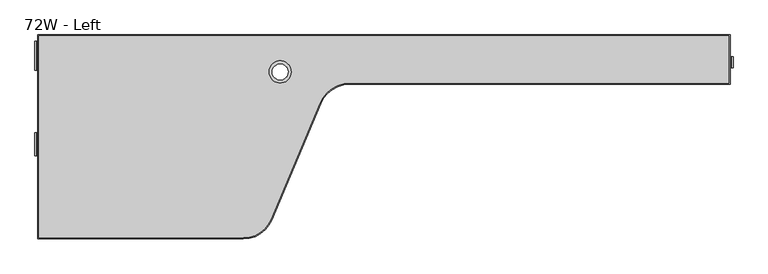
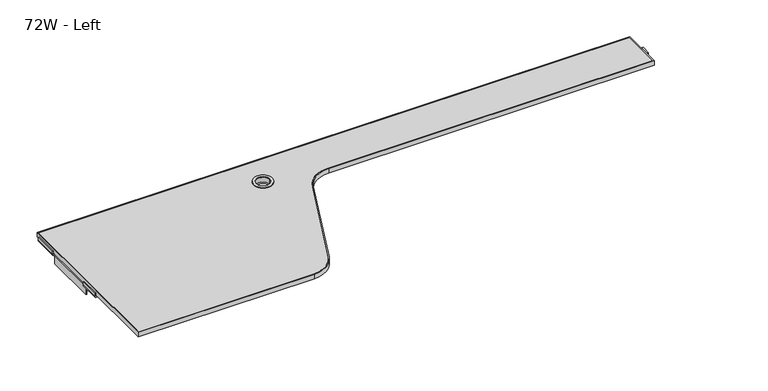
"""IFC4 building model written with IfcOpenShell, lengths in millimetres: furniture geometry, Steelcase Turnstone - Bivi - Table - Dual Top - Upper : 72W - Left."""

import ifcopenshell
import ifcopenshell.guid

model = None  # the IFC model being written
_history = None  # IfcOwnerHistory: only IFC2X3 demands one
_inside = {}  # id of a spatial element -> (the spatial element, [elements in it])
_under = {}  # id of a project, library or spatial element -> (it, [spatial elements below it])
_declared = {}  # id of a project -> (the project, [libraries it declares])
_typed = {}  # id of a type object -> (the type object, [elements of that type])
_made_of = {}  # id of a material, layer set ... -> (it, [elements and type objects made of it])


def new_model(schema):
    """Start an empty IFC model of exactly this schema.

    Asked for "IFC4X3", IfcOpenShell would pick the latest addendum, in which some entities
    have other attributes; the version numbers below select the first issue.
    IFC2X3 requires an IfcOwnerHistory on every rooted entity: one is made here for all.
    """
    global model, _history
    if schema == "IFC4X3":
        model = ifcopenshell.file(schema_version=(4, 3, 0, 0))
    else:
        model = ifcopenshell.file(schema=schema)
    _inside.clear()
    _under.clear()
    _declared.clear()
    _typed.clear()
    _made_of.clear()
    _history = None
    if model.schema == "IFC2X3":
        org = make("IfcOrganization", Name="unknown")
        user = make(
            "IfcPersonAndOrganization",
            ThePerson=make("IfcPerson", FamilyName="unknown"),
            TheOrganization=org,
        )
        app = make(
            "IfcApplication",
            ApplicationDeveloper=org,
            Version="unknown",
            ApplicationFullName="unknown",
            ApplicationIdentifier="unknown",
        )
        _history = make(
            "IfcOwnerHistory",
            OwningUser=user,
            OwningApplication=app,
            ChangeAction="ADDED",
            CreationDate=0,
        )
    return model


def make(cls, **values):
    """One entity of the class cls with the attributes given. An attribute that is None is left unset."""
    return model.create_entity(
        cls, **{name: value for name, value in values.items() if value is not None}
    )


def rooted(cls, **values):
    """An entity with a GlobalId (a new one), such as an element, a storey or a relation."""
    return make(cls, GlobalId=ifcopenshell.guid.new(), OwnerHistory=_history, **values)


def si_unit(unit_type, name, prefix=None):
    """IfcSIUnit, for example si_unit("LENGTHUNIT", "METRE", prefix="MILLI")."""
    return make("IfcSIUnit", UnitType=unit_type, Prefix=prefix, Name=name)


def assignment(units):
    """IfcUnitAssignment: the units of a project."""
    return None if units is None else make("IfcUnitAssignment", Units=units)


def point(xyz):
    """IfcCartesianPoint."""
    return None if xyz is None else make("IfcCartesianPoint", Coordinates=xyz)


def direction(xyz):
    """IfcDirection."""
    return None if xyz is None else make("IfcDirection", DirectionRatios=xyz)


def frame(location, z_axis=None, x_axis=None):
    """IfcAxis2Placement3D, a coordinate frame: its origin and axes. An axis left out is left unset."""
    return make(
        "IfcAxis2Placement3D",
        Location=point(location),
        Axis=direction(z_axis),
        RefDirection=direction(x_axis),
    )


def frame_2d(location, x_axis=None):
    """IfcAxis2Placement2D, a coordinate frame in the plane: its origin and x axis."""
    return make(
        "IfcAxis2Placement2D", Location=point(location), RefDirection=direction(x_axis)
    )


def origin():
    """The frame at (0, 0, 0) with its axes left unset."""
    return frame((0.0, 0.0, 0.0))


def place(relative_to, where):
    """IfcLocalPlacement: puts the frame where relative to a parent placement (None: the world)."""
    return make(
        "IfcLocalPlacement", PlacementRelTo=relative_to, RelativePlacement=where
    )


def context(
    kind, dimensions, precision=None, world=None, true_north=None, identifier=None
):
    """IfcGeometricRepresentationContext, for example the 3D "Model" context."""
    return make(
        "IfcGeometricRepresentationContext",
        ContextIdentifier=identifier,
        ContextType=kind,
        CoordinateSpaceDimension=dimensions,
        Precision=precision,
        WorldCoordinateSystem=world,
        TrueNorth=true_north,
    )


def project(units=None, contexts=None):
    """IfcProject with its units and contexts."""
    return rooted(
        "IfcProject",
        Name="project",
        RepresentationContexts=contexts,
        UnitsInContext=assignment(units),
    )


def spatial(cls, under=None, at=None, **own):
    """A site, building, storey or space (cls), placed at a placement, below another one or the project."""
    s = rooted(cls, ObjectPlacement=at, **own)
    if under is not None:
        _under.setdefault(under.id(), (under, []))[1].append(s)
    return s


def polyline(points):
    """IfcPolyline through the points."""
    return make("IfcPolyline", Points=[point(p) for p in points])


def circle_curve(where, radius):
    """IfcCircle in the frame where."""
    return make("IfcCircle", Position=where, Radius=radius)


def trimmed(basis, trim1, trim2, sense, master):
    """IfcTrimmedCurve: the piece of a basis curve between two trims."""
    return make(
        "IfcTrimmedCurve",
        BasisCurve=basis,
        Trim1=trim1,
        Trim2=trim2,
        SenseAgreement=sense,
        MasterRepresentation=master,
    )


def segment(curve, same_sense, transition):
    """IfcCompositeCurveSegment."""
    return make(
        "IfcCompositeCurveSegment",
        Transition=transition,
        SameSense=same_sense,
        ParentCurve=curve,
    )


def composite_curve(segments, self_intersect=None):
    """IfcCompositeCurve: segments joined end to end."""
    return make("IfcCompositeCurve", Segments=segments, SelfIntersect=self_intersect)


def outline(outer, holes=None, kind="AREA"):
    """IfcArbitraryClosedProfileDef: a profile drawn as a closed curve; with holes, ...WithVoids."""
    if holes is None:
        return make("IfcArbitraryClosedProfileDef", ProfileType=kind, OuterCurve=outer)
    return make(
        "IfcArbitraryProfileDefWithVoids",
        ProfileType=kind,
        OuterCurve=outer,
        InnerCurves=holes,
    )


def extrude(swept, where, along, depth):
    """IfcExtrudedAreaSolid: the profile swept, set in the frame where, extruded along a direction by depth."""
    return make(
        "IfcExtrudedAreaSolid",
        SweptArea=swept,
        Position=where,
        ExtrudedDirection=direction(along),
        Depth=depth,
    )


def faces_of(points, faces, orient=None, outer=None):
    """IfcFace entities. A face is a list of loops; a loop is a list of indices into points, from 0.

    orient and outer hold one flag for each loop. By default every Orientation is true, the
    first loop of a face is its IfcFaceOuterBound and the others are IfcFaceBound.
    """
    made = []
    for i, loops in enumerate(faces):
        bounds = []
        for j, loop in enumerate(loops):
            is_outer = j == 0 if outer is None else outer[i][j]
            bounds.append(
                make(
                    "IfcFaceOuterBound" if is_outer else "IfcFaceBound",
                    Bound=make("IfcPolyLoop", Polygon=[points[k] for k in loop]),
                    Orientation=True if orient is None else orient[i][j],
                )
            )
        made.append(make("IfcFace", Bounds=bounds))
    return made


def faceted_brep(points, faces, orient=None, outer=None, voids=None):
    """IfcFacetedBrep: a solid bounded by flat faces; with voids (closed shells), ...WithVoids."""
    shared = [point(p) for p in points]
    hull = make("IfcClosedShell", CfsFaces=faces_of(shared, faces, orient, outer))
    if voids is None:
        return make("IfcFacetedBrep", Outer=hull)
    return make(
        "IfcFacetedBrepWithVoids",
        Outer=hull,
        Voids=[
            make(cls, CfsFaces=faces_of(shared, fs, o, b)) for cls, fs, o, b in voids
        ],
    )


def shape(context_of_items, identifier, shape_type, items):
    """IfcShapeRepresentation: the items that make up one representation, for example the "Body"."""
    return make(
        "IfcShapeRepresentation",
        ContextOfItems=context_of_items,
        RepresentationIdentifier=identifier,
        RepresentationType=shape_type,
        Items=items,
    )


def source(mapping_origin, context_of_items, identifier, shape_type, items):
    """IfcRepresentationMap: a shape defined once, which mapped items show again and again."""
    return make(
        "IfcRepresentationMap",
        MappingOrigin=mapping_origin,
        MappedRepresentation=shape(context_of_items, identifier, shape_type, items),
    )


def transform(
    local_origin,
    x_axis=None,
    y_axis=None,
    z_axis=None,
    scale=None,
    scale2=None,
    scale3=None,
    uniform=True,
):
    """IfcCartesianTransformationOperator3D, or its non-uniform kind. x_axis, y_axis, z_axis: its Axis1, 2, 3."""
    if uniform:
        return make(
            "IfcCartesianTransformationOperator3D",
            Axis1=direction(x_axis),
            Axis2=direction(y_axis),
            LocalOrigin=point(local_origin),
            Scale=scale,
            Axis3=direction(z_axis),
        )
    return make(
        "IfcCartesianTransformationOperator3DnonUniform",
        Axis1=direction(x_axis),
        Axis2=direction(y_axis),
        LocalOrigin=point(local_origin),
        Scale=scale,
        Axis3=direction(z_axis),
        Scale2=scale2,
        Scale3=scale3,
    )


def mapped(mapping_source, mapping_target):
    """IfcMappedItem: shows the shape of a source again, moved by a transform."""
    return make(
        "IfcMappedItem", MappingSource=mapping_source, MappingTarget=mapping_target
    )


def made_of(thing, what):
    """Note that an element or type object is made of a material, layer set ...; save() writes the relation."""
    if what is not None:
        _made_of.setdefault(what.id(), (what, []))[1].append(thing)
    return thing


def element(
    cls,
    number,
    at=None,
    inside=None,
    cuts=None,
    type_object=None,
    material=None,
    context=None,
    identifier="Body",
    shape_type=None,
    held_by="IfcProductDefinitionShape",
    body=None,
    shapes=None,
    **own,
):
    """One element of the class cls, such as IfcWall. Its Tag is "e" and its number.

    at: its placement. inside: the storey or other place that contains it. cuts: it is an
    opening in that element (IfcRelVoidsElement). A single representation is given by context,
    identifier, shape_type and body (its items); several are given by shapes. held_by: the class
    of the entity that holds the representations. save() writes the other relations.
    """
    e = rooted(cls, Tag="e%d" % number, ObjectPlacement=at, **own)
    if body is not None:
        shapes = [shape(context, identifier, shape_type, body)]
    if shapes is not None:
        e.Representation = make(held_by, Representations=shapes)
    if inside is not None:
        _inside.setdefault(inside.id(), (inside, []))[1].append(e)
    if cuts is not None:
        rooted(
            "IfcRelVoidsElement", RelatingBuildingElement=cuts, RelatedOpeningElement=e
        )
    if type_object is not None:
        _typed.setdefault(type_object.id(), (type_object, []))[1].append(e)
    return made_of(e, material)


def aggregate(whole, parts):
    """IfcRelAggregates: a whole, such as a stair, and the parts it consists of."""
    return rooted("IfcRelAggregates", RelatingObject=whole, RelatedObjects=parts)


def save(model, path):
    """Write the relations noted so far, then the file.

    IfcRelAggregates (storeys below a building ...), IfcRelContainedInSpatialStructure (elements
    in a storey), IfcRelDefinesByType, IfcRelAssociatesMaterial and IfcRelDeclares: one each for
    every whole, place, type object, material and project.
    """
    for whole, parts in _under.values():
        aggregate(whole, parts)
    for where, things in _inside.values():
        rooted(
            "IfcRelContainedInSpatialStructure",
            RelatedElements=things,
            RelatingStructure=where,
        )
    for kind, things in _typed.values():
        rooted("IfcRelDefinesByType", RelatedObjects=things, RelatingType=kind)
    for what, things in _made_of.values():
        rooted("IfcRelAssociatesMaterial", RelatedObjects=things, RelatingMaterial=what)
    for by, libraries in _declared.values():
        rooted("IfcRelDeclares", RelatingContext=by, RelatedDefinitions=libraries)
    model.write(path)


def plane_surface(at):
    """IfcPlane: the flat surface through the origin of the frame at, square to its z axis."""
    return make("IfcPlane", Position=at)


def cylinder_surface(at, radius):
    """IfcCylindricalSurface: all points at the distance radius from the z axis of the frame at."""
    return make("IfcCylindricalSurface", Position=at, Radius=radius)


def revolved_surface(curve, axis_point, axis_direction):
    """IfcSurfaceOfRevolution: the curve turned about the line through axis_point along axis_direction."""
    return make(
        "IfcSurfaceOfRevolution",
        SweptCurve=make("IfcArbitraryOpenProfileDef", ProfileType="CURVE", Curve=curve),
        AxisPosition=make("IfcAxis1Placement", Location=point(axis_point), Axis=direction(axis_direction)),
    )


def advanced_brep(points, edges, surfaces, faces):
    """IfcAdvancedBrep: a solid bounded by faces that lie on surfaces and meet in shared edges.

    An edge is (start, end): straight between two places in points (the first is 0);
    or (start, end, curve); or (start, end, curve, False) where it runs against its curve.
    A face is (place in surfaces, loops), or (place, loops, False) where it looks against
    its surface's normal. A loop lists edges by number (the first is 1), with a minus sign
    where the edge is run from its end to its start. The first loop is the outer one.
    """
    corners = [point(p) for p in points]
    vertices = [make("IfcVertexPoint", VertexGeometry=c) for c in corners]
    made = []
    for start, end, *more in edges:
        made.append(
            make(
                "IfcEdgeCurve",
                EdgeStart=vertices[start],
                EdgeEnd=vertices[end],
                EdgeGeometry=more[0] if more else make("IfcPolyline", Points=[corners[start], corners[end]]),
                SameSense=more[1] if len(more) > 1 else True,
            )
        )
    hull = []
    for where, loops, *sense in faces:
        bounds = []
        for j, loop in enumerate(loops):
            ring = [make("IfcOrientedEdge", EdgeElement=made[abs(k) - 1], Orientation=k > 0) for k in loop]
            bounds.append(
                make(
                    "IfcFaceOuterBound" if j == 0 else "IfcFaceBound",
                    Bound=make("IfcEdgeLoop", EdgeList=ring),
                    Orientation=True,
                )
            )
        hull.append(make("IfcAdvancedFace", Bounds=bounds, FaceSurface=surfaces[where], SameSense=sense[0] if sense else True))
    return make("IfcAdvancedBrep", Outer=make("IfcClosedShell", CfsFaces=hull))


def furniture_72w_left_38a2987f(model_context):
    return source(origin(), model_context, "Body", "SolidModel", [
        faceted_brep([(890.710046, 798.3804985, 1041.4865257), (890.710046, 798.3804985, 984.3365257), (839.910046, 798.3804985, 984.3365257), (839.910046, 798.3804985, 1041.4865257), (679.4202293, 353.2724638, 1039.9118156), (700.0875061, 353.2724638, 1039.9118156), (700.0875061, 353.2724638, 1008.3955413), (679.4202293, 353.2724638, 1008.3955413), (679.4202293, 353.2724638, 1007.3133509), (702.2312326, 353.2724638, 1007.3133509), (702.2312326, 353.2724638, 1041.4865257), (679.4202293, 353.2724638, 1041.4865257)], [[[0, 1, 2, 3]], [[4, 5, 6, 7, 8, 9, 10, 11]], [[5, 4, 0]], [[6, 5, 0]], [[7, 6, 0, 3]], [[8, 7, 3, 2]], [[9, 8, 2, 1]], [[10, 9, 1, 0]], [[11, 10, 0]], [[4, 11, 0]]]),
        faceted_brep([(176.3325988, 298.0312383, 1041.4865257), (176.3325988, 353.2724638, 1041.4865257), (176.3325988, 353.2724638, 1010.7646869), (176.3325988, 337.4886594, 1010.7646869), (176.3325988, 309.9526244, 1031.5145776), (176.3325988, 309.9526244, 1040.1793583), (176.3325988, 298.0312383, 1040.1793583), (678.7163849, 298.0312383, 1041.4865257), (702.7713731, 353.2724638, 1041.4865257), (702.7713731, 353.2724638, 1010.7646869), (695.8982594, 337.4886594, 1010.7646869), (683.9075949, 309.9526244, 1031.5145776), (683.9075949, 309.9526244, 1040.1793583), (678.7163849, 298.0312383, 1040.1793583)], [[[0, 1, 2, 3, 4, 5, 6]], [[1, 0, 7, 8]], [[2, 1, 8, 9]], [[3, 2, 9, 10]], [[4, 3, 10, 11]], [[5, 4, 11, 12]], [[6, 5, 12, 13]], [[0, 6, 13, 7]], [[8, 7, 13, 12, 11, 10, 9]]]),
        extrude(outline(composite_curve([segment(trimmed(circle_curve(frame_2d((1043.0122331, 1931.4961898)), 1.7676499), [point((1043.0122331, 1933.2638397))], [point((1041.2445831, 1931.4961898))], True, "CARTESIAN"), True, "CONTINUOUS"), segment(polyline([(1041.2445831, 1931.4961898), (1041.2445831, 1908.5962259), (1038.2067598, 1908.5962259), (1038.2067598, 1931.09999)]), True, "CONTINUOUS"), segment(trimmed(circle_curve(frame_2d((1043.4087962, 1931.09999)), 5.2020364), [point((1038.2067598, 1931.09999))], [point((1043.4087962, 1936.3020264))], False, "CARTESIAN"), True, "CONTINUOUS"), segment(polyline([(1043.4087962, 1936.3020264), (1052.5780574, 1936.3020264), (1052.5780574, 1933.2638397), (1043.0122331, 1933.2638397)]), True, "CONTINUOUS")], self_intersect=False)), frame((0.0, 731.0843589, 0.0), z_axis=(0.0, 1.0, 0.0), x_axis=(0.0, 0.0, 1.0)), (0.0, 0.0, 1.0), 28.5750242),
        extrude(outline(composite_curve([segment(polyline([(153.4, 294.1411651), (153.4, 812.4281826), (1925.05, 812.4281826), (1925.05, 691.0157049), (952.3033924, 691.0157049)]), True, "CONTINUOUS"), segment(trimmed(circle_curve(frame_2d((952.3033924, 606.3077967)), 84.7079081), [point((952.3033924, 691.0157049))], [point((874.2002094, 639.0999071))], True, "CARTESIAN"), True, "CONTINUOUS"), segment(polyline([(874.2002094, 639.0999071), (748.9750264, 340.8426346)]), True, "CONTINUOUS"), segment(trimmed(circle_curve(frame_2d((678.7163849, 370.3411651)), 76.2), [point((748.9750264, 340.8426346))], [point((678.7163849, 294.1411651))], False, "CARTESIAN"), True, "CONTINUOUS"), segment(polyline([(678.7163849, 294.1411651), (153.4, 294.1411651)]), True, "CONTINUOUS")], self_intersect=False), holes=[composite_curve([segment(trimmed(circle_curve(frame_2d((773.0295779, 720.0618051)), 20.4182782), [point((752.6112996, 720.0618051))], [point((793.4478561, 720.0618051))], True, "CARTESIAN"), True, "CONTINUOUS"), segment(trimmed(circle_curve(frame_2d((773.0295779, 720.0618051)), 20.4182782), [point((793.4478561, 720.0618051))], [point((752.6112996, 720.0618051))], True, "CARTESIAN"), True, "CONTINUOUS")], self_intersect=False)]), frame((0.0, 0.0, 1041.4865257), z_axis=(0.0, 0.0, 1.0), x_axis=(1.0, 0.0, 0.0)), (0.0, 0.0, 1.0), 13.9699806),
        advanced_brep(
        [(150.6059845, 291.3471738, 1055.4565063), (678.6792673, 291.3471738, 1055.4565063), (751.5511765, 339.7610219, 1055.4565063), (876.7763596, 638.0182943, 1055.4565063), (952.3033924, 688.2217049, 1055.4565063), (1928.6059845, 688.2217075, 1055.4565063), (1928.6059845, 815.2221738, 1055.4565063), (150.6059845, 815.2221738, 1055.4565063), (952.3033924, 691.0157049, 1055.4565063), (874.2002094, 639.0999071, 1055.4565063), (748.9750264, 340.8426346, 1055.4565063), (678.7163849, 294.1411651, 1055.4565063), (153.4, 294.1411651, 1055.4565063), (153.4, 812.4281826, 1055.4565063), (1925.05, 812.4281826, 1055.4565063), (1925.05, 691.0157049, 1055.4565063), (150.6059845, 291.3471738, 1041.4865257), (150.6059845, 815.2221738, 1041.4865257), (1928.6059845, 815.2221738, 1041.4865257), (1928.6059845, 688.2217075, 1041.4865257), (952.3033924, 688.2217075, 1041.4865257), (876.7763596, 638.0182943, 1041.4865257), (751.5511765, 339.7610219, 1041.4865257), (678.6792673, 291.3471738, 1041.4865257), (952.3033924, 691.0157049, 1041.4865257), (1925.05, 691.0157049, 1041.4865257), (1925.05, 812.4281826, 1041.4865257), (153.4, 812.4281826, 1041.4865257), (153.4, 294.1411651, 1041.4865257), (678.7163849, 294.1411651, 1041.4865257), (748.9750264, 340.8426346, 1041.4865257), (874.2002094, 639.0999071, 1041.4865257)],
        [
            (0, 1),
            (1, 2, circle_curve(frame((678.7163849, 370.3411651, 1055.4565063), z_axis=(0.0, 0.0, 1.0), x_axis=(-0.4063186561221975, 0.913731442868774, 0.0)), 78.994)),
            (2, 3),
            (3, 4, circle_curve(frame((952.3033924, 606.3077967, 1055.4565063), z_axis=(0.0, 0.0, -1.0), x_axis=(-0.4063186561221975, 0.913731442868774, 0.0)), 81.9139081)),
            (4, 5),
            (5, 6),
            (6, 7),
            (7, 0),
            (8, 9, circle_curve(frame((952.3033924, 606.3077967, 1055.4565063), z_axis=(0.0, 0.0, 1.0), x_axis=(-0.4063186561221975, 0.913731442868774, 0.0)), 84.7079081)),
            (9, 10),
            (10, 11, circle_curve(frame((678.7163849, 370.3411651, 1055.4565063), z_axis=(0.0, 0.0, -1.0), x_axis=(-0.4063186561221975, 0.913731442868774, 0.0)), 76.2)),
            (11, 12),
            (12, 13),
            (13, 14),
            (14, 15),
            (15, 8),
            (16, 17),
            (17, 18),
            (18, 19),
            (19, 20),
            (20, 21, circle_curve(frame((952.3033924, 606.3077967, 1041.4865257), z_axis=(0.0, 0.0, 1.0), x_axis=(-0.4063186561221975, 0.913731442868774, 0.0)), 81.9139081)),
            (21, 22),
            (22, 23, circle_curve(frame((678.7163849, 370.3411651, 1041.4865257), z_axis=(0.0, 0.0, -1.0), x_axis=(-0.4063186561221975, 0.913731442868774, 0.0)), 78.994)),
            (23, 16),
            (24, 25),
            (25, 26),
            (26, 27),
            (27, 28),
            (28, 29),
            (29, 30, circle_curve(frame((678.7163849, 370.3411651, 1041.4865257), z_axis=(0.0, 0.0, 1.0), x_axis=(-0.4063186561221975, 0.913731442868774, 0.0)), 76.2)),
            (30, 31),
            (31, 24, circle_curve(frame((952.3033924, 606.3077967, 1041.4865257), z_axis=(0.0, 0.0, -1.0), x_axis=(-0.4063186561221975, 0.913731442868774, 0.0)), 84.7079081)),
            (8, 24),
            (31, 9),
            (30, 10),
            (29, 11),
            (28, 12),
            (27, 13),
            (26, 14),
            (25, 15),
            (0, 16),
            (23, 1),
            (22, 2),
            (21, 3),
            (20, 4),
            (19, 5),
            (18, 6),
            (17, 7),
        ],
        [
            plane_surface(frame((917.884989, 683.7080759, 1055.4565063), z_axis=(0.0, 0.0, 1.0000000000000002), x_axis=(-0.913731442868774, -0.40631865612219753, 0.0))),
            plane_surface(frame((917.884989, 683.7080759, 1041.4865257), z_axis=(0.0, 0.0, -1.0000000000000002), x_axis=(0.913731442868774, 0.40631865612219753, 0.0))),
            cylinder_surface(frame((952.3033924, 606.3077967, 1041.4865257), z_axis=(0.0, 0.0, 1.0), x_axis=(-0.4063186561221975, 0.913731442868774, 0.0)), 84.7079081),
            plane_surface(frame((874.2002094, 639.0999071, 1055.4565063), z_axis=(-0.9220294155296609, 0.3871198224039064, 0.0), x_axis=(0.0, 0.0, -1.0))),
            revolved_surface(polyline([(647.7549033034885, 439.9675010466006, 1041.4865257), (647.7549033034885, 439.9675010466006, 1055.4565063)]), (678.7163849, 370.3411651, 1041.4865257), (0.0, 0.0, -1.0)),
            plane_surface(frame((678.7163849, 294.1411651, 1055.4565063), z_axis=(0.0, 1.0, 0.0), x_axis=(0.0, 0.0, -1.0))),
            plane_surface(frame((153.4, 294.1411651, 1055.4565063), z_axis=(1.0, 0.0, 0.0), x_axis=(0.0, 0.0, -1.0))),
            plane_surface(frame((153.4, 812.4281826, 1055.4565063), z_axis=(0.0, -1.0, 0.0), x_axis=(0.0, 0.0, -1.0))),
            plane_surface(frame((1925.05, 812.4281826, 1055.4565063), z_axis=(-1.0, 0.0, 0.0), x_axis=(0.0, 0.0, -1.0))),
            plane_surface(frame((1925.05, 691.0157049, 1055.4565063), z_axis=(0.0, 1.0, 0.0), x_axis=(0.0, 0.0, -1.0))),
            plane_surface(frame((150.6059845, 291.3471738, 1055.4565063), z_axis=(0.0, -1.0, 0.0), x_axis=(0.0, 0.0, -1.0))),
            cylinder_surface(frame((678.7163849, 370.3411651, 0.0), z_axis=(0.0, 0.0, 1.0), x_axis=(-0.4063186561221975, 0.913731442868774, 0.0)), 78.994),
            plane_surface(frame((751.5511765, 339.7610219, 1055.4565063), z_axis=(0.9220294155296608, -0.38711982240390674, 0.0), x_axis=(0.0, 0.0, -1.0))),
            revolved_surface(polyline([(919.0202433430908, 681.1551101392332, 1041.4865257), (919.0202433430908, 681.1551101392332, 1055.4565063)]), (952.3033924, 606.3077967, 0.0), (0.0, 0.0, -1.0)),
            plane_surface(frame((952.3033924, 688.2217075, 1055.4565063), z_axis=(0.0, -1.0, 0.0), x_axis=(0.0, 0.0, -1.0))),
            plane_surface(frame((1928.6059845, 688.2217075, 1055.4565063), z_axis=(1.0, 0.0, 0.0), x_axis=(0.0, 0.0, -1.0))),
            plane_surface(frame((1928.6059845, 815.2221738, 1055.4565063), z_axis=(0.0, 1.0, 0.0), x_axis=(0.0, 0.0, -1.0))),
            plane_surface(frame((150.6059845, 815.2221738, 1055.4565063), z_axis=(-1.0, 0.0, 0.0), x_axis=(0.0, 0.0, -1.0))),
        ],
        [
            (0, [[1, 2, 3, 4, 5, 6, 7, 8], [9, 10, 11, 12, 13, 14, 15, 16]]),
            (1, [[17, 18, 19, 20, 21, 22, 23, 24], [25, 26, 27, 28, 29, 30, 31, 32]]),
            (2, [[-9, 33, -32, 34]]),
            (3, [[-10, -34, -31, 35]]),
            (4, [[-11, -35, -30, 36]]),
            (5, [[-12, -36, -29, 37]]),
            (6, [[-13, -37, -28, 38]]),
            (7, [[-14, -38, -27, 39]]),
            (8, [[-15, -39, -26, 40]]),
            (9, [[-16, -40, -25, -33]]),
            (10, [[-1, 41, -24, 42]]),
            (11, [[-2, -42, -23, 43]]),
            (12, [[-3, -43, -22, 44]]),
            (13, [[-4, -44, -21, 45]]),
            (14, [[-5, -45, -20, 46]]),
            (15, [[-6, -46, -19, 47]]),
            (16, [[-7, -47, -18, 48]]),
            (17, [[-8, -48, -17, -41]]),
        ],
    ),
        advanced_brep(
        [(173.2955749, 724.9765806, 1033.5003172), (176.3325988, 724.9765806, 1033.5003172), (176.3325988, 724.9765806, 1035.9407705), (171.0287862, 724.9765806, 1041.2445831), (148.1288223, 724.9765806, 1041.2445831), (146.3611724, 724.9765806, 1043.0122331), (146.3611724, 724.9765806, 1052.5780574), (143.3229857, 724.9765806, 1052.5780574), (143.3229857, 724.9765806, 1043.4087962), (148.5250221, 724.9765806, 1038.2067598), (171.3677403, 724.9765806, 1038.2067598), (173.2955749, 724.9765806, 1036.2789253), (173.2955749, 564.321009, 1033.5003172), (176.3325988, 564.321009, 1033.5003172), (173.2955749, 564.321009, 1036.2789253), (171.3677403, 564.321009, 1038.2067598), (148.5250221, 564.321009, 1038.2067598), (143.3229857, 564.321009, 1043.4087962), (143.3229857, 564.321009, 1052.5780574), (146.3611724, 564.321009, 1052.5780574), (146.3611724, 564.321009, 1043.0122331), (148.1288223, 564.321009, 1041.2445831), (171.0287862, 564.321009, 1041.2445831), (176.3325988, 564.321009, 1035.9407705), (173.2955749, 505.2663324, 1033.5003172), (176.3325988, 505.2663324, 1033.5003172), (176.3325988, 505.2663324, 1035.9407705), (171.0287862, 505.2663324, 1041.2445831), (148.1288223, 505.2663324, 1041.2445831), (146.3611724, 505.2663324, 1043.0122331), (146.3611724, 505.2663324, 1052.5780574), (143.3229857, 505.2663324, 1052.5780574), (143.3229857, 505.2663324, 1043.4087962), (148.5250221, 505.2663324, 1038.2067598), (171.3677403, 505.2663324, 1038.2067598), (173.2955749, 505.2663324, 1036.2789253), (173.2955749, 348.2448747, 1033.5003172), (176.3325988, 348.2448747, 1033.5003172), (176.3325988, 798.5617693, 1033.5003172), (173.2955749, 798.5617693, 1033.5003172), (173.2955749, 798.5617693, 1036.2789253), (171.3677403, 798.5617693, 1038.2067598), (148.5250221, 798.5617693, 1038.2067598), (143.3229857, 798.5617693, 1043.4087962), (143.3229857, 798.5617693, 1052.5780574), (146.3611724, 798.5617693, 1052.5780574), (146.3611724, 798.5617693, 1043.0122331), (148.1288223, 798.5617693, 1041.2445831), (171.0287862, 798.5617693, 1041.2445831), (176.3325988, 798.5617693, 1035.9407705), (176.3325988, 794.9607992, 1010.7646869), (173.2955749, 794.9607992, 1010.7646869), (176.3325988, 348.2448747, 1010.7646869), (173.2955749, 348.2448747, 1010.7646869)],
        [
            (0, 1),
            (1, 2),
            (2, 3, circle_curve(frame((171.0287862, 724.9765806, 1035.9407705), z_axis=(0.0, -1.0, 0.0), x_axis=(-1.0, 0.0, 0.0)), 5.3038126)),
            (3, 4),
            (4, 5, circle_curve(frame((148.1288223, 724.9765806, 1043.0122331), z_axis=(0.0, 1.0, 0.0), x_axis=(-1.0, 0.0, 0.0)), 1.7676499)),
            (5, 6),
            (6, 7),
            (7, 8),
            (8, 9, circle_curve(frame((148.5250221, 724.9765806, 1043.4087962), z_axis=(0.0, -1.0, 0.0), x_axis=(-1.0, 0.0, 0.0)), 5.2020364)),
            (9, 10),
            (10, 11, circle_curve(frame((171.3677403, 724.9765806, 1036.2789253), z_axis=(0.0, 1.0, 0.0), x_axis=(-1.0, 0.0, 0.0)), 1.9278345)),
            (11, 0),
            (0, 12),
            (12, 13),
            (13, 1),
            (12, 14),
            (14, 15, circle_curve(frame((171.3677403, 564.321009, 1036.2789253), z_axis=(0.0, -1.0, 0.0), x_axis=(-1.0, 0.0, 0.0)), 1.9278345)),
            (15, 16),
            (16, 17, circle_curve(frame((148.5250221, 564.321009, 1043.4087962), z_axis=(0.0, 1.0, 0.0), x_axis=(-1.0, 0.0, 0.0)), 5.2020364)),
            (17, 18),
            (18, 19),
            (19, 20),
            (20, 21, circle_curve(frame((148.1288223, 564.321009, 1043.0122331), z_axis=(0.0, -1.0, 0.0), x_axis=(-1.0, 0.0, 0.0)), 1.7676499)),
            (21, 22),
            (22, 23, circle_curve(frame((171.0287862, 564.321009, 1035.9407705), z_axis=(0.0, 1.0, 0.0), x_axis=(-1.0, 0.0, 0.0)), 5.3038126)),
            (23, 13),
            (24, 25),
            (25, 26),
            (26, 27, circle_curve(frame((171.0287862, 505.2663324, 1035.9407705), z_axis=(0.0, -1.0, 0.0), x_axis=(-1.0, 0.0, 0.0)), 5.3038126)),
            (27, 28),
            (28, 29, circle_curve(frame((148.1288223, 505.2663324, 1043.0122331), z_axis=(0.0, 1.0, 0.0), x_axis=(-1.0, 0.0, 0.0)), 1.7676499)),
            (29, 30),
            (30, 31),
            (31, 32),
            (32, 33, circle_curve(frame((148.5250221, 505.2663324, 1043.4087962), z_axis=(0.0, -1.0, 0.0), x_axis=(-1.0, 0.0, 0.0)), 5.2020364)),
            (33, 34),
            (34, 35, circle_curve(frame((171.3677403, 505.2663324, 1036.2789253), z_axis=(0.0, 1.0, 0.0), x_axis=(-1.0, 0.0, 0.0)), 1.9278345)),
            (35, 24),
            (24, 36),
            (36, 37),
            (37, 25),
            (38, 39),
            (39, 40),
            (40, 41, circle_curve(frame((171.3677403, 798.5617693, 1036.2789253), z_axis=(0.0, -1.0, 0.0), x_axis=(-1.0, 0.0, 0.0)), 1.9278345)),
            (41, 42),
            (42, 43, circle_curve(frame((148.5250221, 798.5617693, 1043.4087962), z_axis=(0.0, 1.0, 0.0), x_axis=(-1.0, 0.0, 0.0)), 5.2020364)),
            (43, 44),
            (44, 45),
            (45, 46),
            (46, 47, circle_curve(frame((148.1288223, 798.5617693, 1043.0122331), z_axis=(0.0, -1.0, 0.0), x_axis=(-1.0, 0.0, 0.0)), 1.7676499)),
            (47, 48),
            (48, 49, circle_curve(frame((171.0287862, 798.5617693, 1035.9407705), z_axis=(0.0, 1.0, 0.0), x_axis=(-1.0, 0.0, 0.0)), 5.3038126)),
            (49, 38),
            (38, 50),
            (50, 51),
            (51, 39),
            (28, 21),
            (20, 29),
            (4, 47),
            (46, 5),
            (27, 22),
            (3, 48),
            (26, 23),
            (2, 49),
            (37, 52),
            (52, 50),
            (53, 36),
            (35, 14),
            (11, 40),
            (51, 53),
            (34, 15),
            (10, 41),
            (33, 16),
            (9, 42),
            (32, 17),
            (8, 43),
            (31, 18),
            (7, 44),
            (30, 19),
            (6, 45),
            (52, 53),
        ],
        [
            plane_surface(frame((-124.7902, 724.9765806, 1074.5657681), z_axis=(0.0, -1.0, 0.0), x_axis=(1.0, 0.0, 0.0))),
            plane_surface(frame((-124.7902, 724.9765806, 1033.5003172), z_axis=(0.0, 0.0, 1.0), x_axis=(1.0, 0.0, 0.0))),
            plane_surface(frame((-124.7902, 564.321009, 1033.5003172), z_axis=(0.0, 1.0, 0.0), x_axis=(1.0, 0.0, 0.0))),
            plane_surface(frame((-124.7902, 505.2663324, 1074.5657681), z_axis=(0.0, -1.0, 0.0), x_axis=(1.0, 0.0, 0.0))),
            plane_surface(frame((-124.7902, 505.2663324, 1033.5003172), z_axis=(0.0, 0.0, 1.0), x_axis=(1.0, 0.0, 0.0))),
            plane_surface(frame((-124.7902, 798.5617693, 1033.5003172), z_axis=(0.0, 1.0, 0.0), x_axis=(1.0, 0.0, 0.0))),
            plane_surface(frame((-124.7902, 791.6082574, 989.5975705), z_axis=(0.0, 0.9876883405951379, -0.1564344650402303), x_axis=(1.0, 0.0, 0.0))),
            revolved_surface(polyline([(146.3611724, 564.321009, 1043.0122331), (146.3611724, 505.2663324, 1043.0122331)]), (148.1288223, 815.2221738, 1043.0122331), (0.0, 1.0, 0.0)),
            revolved_surface(polyline([(146.3611724, 798.5617693, 1043.0122331), (146.3611724, 724.9765806, 1043.0122331)]), (148.1288223, 815.2221738, 1043.0122331), (0.0, 1.0, 0.0)),
            plane_surface(frame((171.0287862, 348.2448747, 1041.2445831), z_axis=(0.0, 0.0, 1.0), x_axis=(0.0, 1.0, 0.0))),
            cylinder_surface(frame((171.0287862, 815.2221738, 1035.9407705), z_axis=(0.0, -1.0, 0.0), x_axis=(-1.0, 0.0, 0.0)), 5.3038126),
            plane_surface(frame((176.3325988, 348.2448747, 1010.7646869), z_axis=(1.0, 0.0, 0.0), x_axis=(0.0, 1.0, 0.0))),
            plane_surface(frame((173.2955749, 348.2448747, 1036.2789253), z_axis=(-1.0, 0.0, 0.0), x_axis=(0.0, 1.0, 0.0))),
            revolved_surface(polyline([(169.43990580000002, 564.321009, 1036.2789253), (169.43990580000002, 505.2663324, 1036.2789253)]), (171.3677403, 815.2221738, 1036.2789253), (0.0, 1.0, 0.0)),
            revolved_surface(polyline([(169.43990580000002, 798.5617693, 1036.2789253), (169.43990580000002, 724.9765806, 1036.2789253)]), (171.3677403, 815.2221738, 1036.2789253), (0.0, 1.0, 0.0)),
            plane_surface(frame((148.5250221, 348.2448747, 1038.2067598), z_axis=(0.0, 0.0, -1.0), x_axis=(0.0, 1.0, 0.0))),
            cylinder_surface(frame((148.5250221, 815.2221738, 1043.4087962), z_axis=(0.0, -1.0, 0.0), x_axis=(-1.0, 0.0, 0.0)), 5.2020364),
            plane_surface(frame((143.3229857, 348.2448747, 1052.5780574), z_axis=(-1.0, 0.0, 0.0), x_axis=(0.0, 1.0, 0.0))),
            plane_surface(frame((146.3611724, 348.2448747, 1052.5780574), z_axis=(0.0, 0.0, 1.0), x_axis=(0.0, 1.0, 0.0))),
            plane_surface(frame((146.3611724, 348.2448747, 1043.0122331), z_axis=(1.0, 0.0, 0.0), x_axis=(0.0, 1.0, 0.0))),
            plane_surface(frame((173.2955749, 348.2448747, 1010.7646869), z_axis=(0.0, 0.0, -1.0), x_axis=(0.0, 1.0, 0.0))),
            plane_surface(frame((146.3611724, 348.2448747, 1052.5780574), z_axis=(0.0, -1.0, 0.0), x_axis=(0.0, 0.0, 1.0))),
        ],
        [
            (0, [[1, 2, 3, 4, 5, 6, 7, 8, 9, 10, 11, 12]]),
            (1, [[-1, 13, 14, 15]]),
            (2, [[-14, 16, 17, 18, 19, 20, 21, 22, 23, 24, 25, 26]]),
            (3, [[27, 28, 29, 30, 31, 32, 33, 34, 35, 36, 37, 38]]),
            (4, [[-27, 39, 40, 41]]),
            (5, [[42, 43, 44, 45, 46, 47, 48, 49, 50, 51, 52, 53]]),
            (6, [[-42, 54, 55, 56]]),
            (7, [[57, -23, 58, -31]]),
            (8, [[59, -50, 60, -5]]),
            (9, [[-57, -30, 61, -24]]),
            (9, [[-59, -4, 62, -51]]),
            (10, [[-61, -29, 63, -25]]),
            (10, [[-62, -3, 64, -52]]),
            (11, [[65, 66, -54, -53, -64, -2, -15, -26, -63, -28, -41]]),
            (12, [[67, -39, -38, 68, -16, -13, -12, 69, -43, -56, 70]]),
            (13, [[-68, -37, 71, -17]]),
            (14, [[-69, -11, 72, -44]]),
            (15, [[-71, -36, 73, -18]]),
            (15, [[-72, -10, 74, -45]]),
            (16, [[-73, -35, 75, -19]]),
            (16, [[-74, -9, 76, -46]]),
            (17, [[-75, -34, 77, -20]]),
            (17, [[-76, -8, 78, -47]]),
            (18, [[-77, -33, 79, -21]]),
            (18, [[-78, -7, 80, -48]]),
            (19, [[-79, -32, -58, -22]]),
            (19, [[-80, -6, -60, -49]]),
            (20, [[81, -70, -55, -66]]),
            (21, [[-81, -65, -40, -67]]),
        ],
    ),
        extrude(outline(composite_curve([segment(polyline([(1010.7646869, 153.4), (1036.4895002, 153.4)]), True, "CONTINUOUS"), segment(trimmed(circle_curve(frame_2d((1036.4895002, 155.1172597)), 1.7172597), [point((1036.4895002, 153.4))], [point((1038.2067598, 155.1172597))], True, "CARTESIAN"), True, "CONTINUOUS"), segment(polyline([(1038.2067598, 155.1172597), (1038.2067598, 171.3677403)]), True, "CONTINUOUS"), segment(trimmed(circle_curve(frame_2d((1036.2789253, 171.3677403)), 1.9278345), [point((1038.2067598, 171.3677403))], [point((1036.325297, 173.2950171))], True, "CARTESIAN"), True, "CONTINUOUS"), segment(polyline([(1036.325297, 173.2950171), (1036.325297, 176.3186413)]), True, "CONTINUOUS"), segment(trimmed(circle_curve(frame_2d((1035.9407705, 171.0287862)), 5.3038126), [point((1036.325297, 176.3186413))], [point((1041.2445831, 171.0287862))], False, "CARTESIAN"), True, "CONTINUOUS"), segment(polyline([(1041.2445831, 171.0287862), (1041.2445831, 155.5630502)]), True, "CONTINUOUS"), segment(trimmed(circle_curve(frame_2d((1036.2875174, 155.5630502)), 4.9570657), [point((1041.2445831, 155.5630502))], [point((1036.2875174, 150.6059845))], False, "CARTESIAN"), True, "CONTINUOUS"), segment(polyline([(1036.2875174, 150.6059845), (1010.7646869, 150.6059845), (1010.7646869, 153.4)]), True, "CONTINUOUS")], self_intersect=False)), frame((0.0, 564.3211323, 0.0), z_axis=(0.0, 1.0, 0.0), x_axis=(0.0, 0.0, 1.0)), (0.0, 0.0, 1.0), 160.6554483),
        extrude(outline(composite_curve([segment(trimmed(circle_curve(frame_2d((773.0295779, 720.0618051)), 28.3365682), [point((744.6930097, 720.0618051))], [point((801.3661461, 720.0618051))], False, "CARTESIAN"), True, "CONTINUOUS"), segment(trimmed(circle_curve(frame_2d((773.0295779, 720.0618051)), 28.3365682), [point((801.3661461, 720.0618051))], [point((744.6930097, 720.0618051))], False, "CARTESIAN"), True, "CONTINUOUS")], self_intersect=False), holes=[composite_curve([segment(trimmed(circle_curve(frame_2d((773.0295779, 720.0618051)), 20.4182782), [point((752.6112996, 720.0618051))], [point((793.4478561, 720.0618051))], True, "CARTESIAN"), True, "CONTINUOUS"), segment(trimmed(circle_curve(frame_2d((773.0295779, 720.0618051)), 20.4182782), [point((793.4478561, 720.0618051))], [point((752.6112996, 720.0618051))], True, "CARTESIAN"), True, "CONTINUOUS")], self_intersect=False)]), frame((0.0, 0.0, 1036.8869459), z_axis=(0.0, 0.0, 1.0), x_axis=(1.0, 0.0, 0.0)), (0.0, 0.0, 1.0), 21.3373179),
    ])


if __name__ == "__main__":
    model = new_model("IFC4")
    model_context = context("Model", 3, world=origin())
    ifc_project = project(units=[si_unit("LENGTHUNIT", "METRE", prefix="MILLI")], contexts=[model_context])
    site = spatial("IfcSite", under=ifc_project)
    building = spatial("IfcBuilding", under=site)
    placement = place(None, origin())
    furniture_72w_left_shape = furniture_72w_left_38a2987f(model_context)
    element("IfcFurniture", 1, ObjectType="Steelcase Turnstone - Bivi - Table - Dual Top - Upper : 72W - Left", at=placement, inside=building, context=model_context, shape_type="MappedRepresentation", body=[
        mapped(furniture_72w_left_shape, transform((0.0, 0.0, 0.0), x_axis=(1.0, 0.0, 0.0), y_axis=(0.0, 1.0, 0.0), z_axis=(0.0, 0.0, 1.0))),
    ])
    save(model, "model.ifc")
